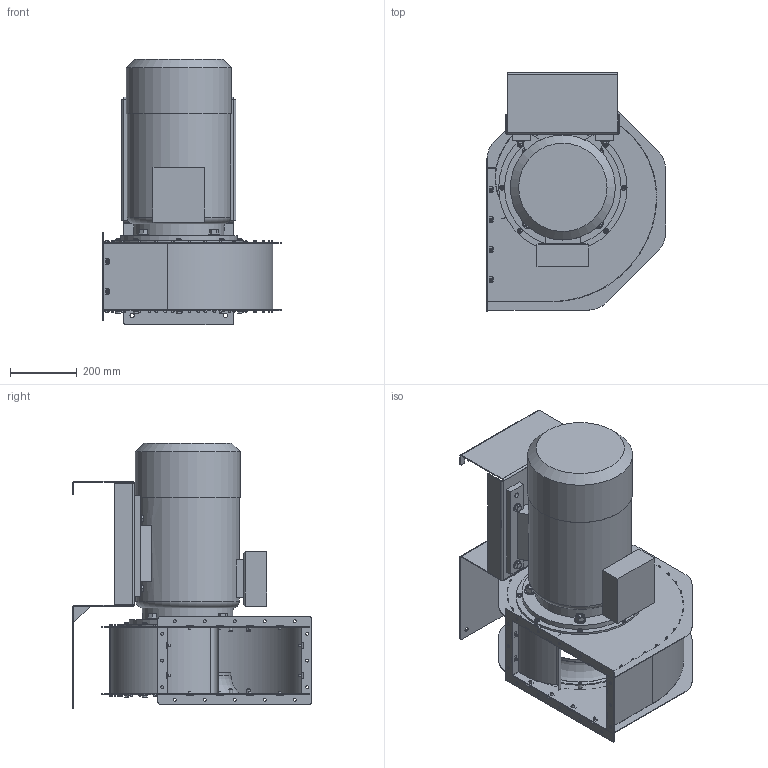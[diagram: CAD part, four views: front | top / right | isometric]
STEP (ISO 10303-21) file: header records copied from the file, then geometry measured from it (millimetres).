
FILE_DESCRIPTION(/* description */ (''),/* implementation_level */ '2;1');
FILE_NAME(/* name */ 'T:\Drawings\Standard Drawings\DATA Web Downloads\3D FILES\HFM-315-128 _ 3D12-0188.stp',/* time_stamp */ '2015-02-18T14:09:10+00:00',/* author */ ('mtinkler'),/* organization */ (''),/* preprocessor_version */ 'ST-DEVELOPER v15.6',/* originating_system */ 'Autodesk Inventor 2015',/* authorisation */ '');
FILE_SCHEMA (('AUTOMOTIVE_DESIGN { 1 0 10303 214 3 1 1 }'));
Length unit declared in the file: centimetre
Products named in the file (1): 3D12-0188
Bounding box: 537 x 716 x 795 mm (x, y, z)
Volume: 46887083.7 mm3; surface area: 3738339.4 mm2
Topology: 101 solids, 101 shells, 2117 faces, 5253 edges, 3399 vertices
Faces by surface type: plane 1181, cylinder 620, cone 243, torus 41, bspline 20, sphere 12
Full cylindrical faces by diameter (mm): 4.8 x12, 5 x24, 8 x32, 8.5 x16, 9 x16, 10.106 x4, 10.5 x2, 11 x16, 11.1 x16, 12 x4, 13 x6, 13.3 x8, 13.5 x2, 13.835 x5, 14 x8, 15 x10, 16 x4, 17.25 x4, 18.5 x4, 25.4 x8, 28.96 x4, 32 x4, 36.752 x2, 42 x1, 220 x1, 250 x1, 252 x1, 257 x1, 259.5 x1, 310 x1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
Entity records: 64606 total; most frequent: CARTESIAN_POINT 13478, DIRECTION 10060, ORIENTED_EDGE 9602, EDGE_CURVE 4801, AXIS2_PLACEMENT_3D 3781, VERTEX_POINT 3287, EDGE_LOOP 2942, LINE 2498
